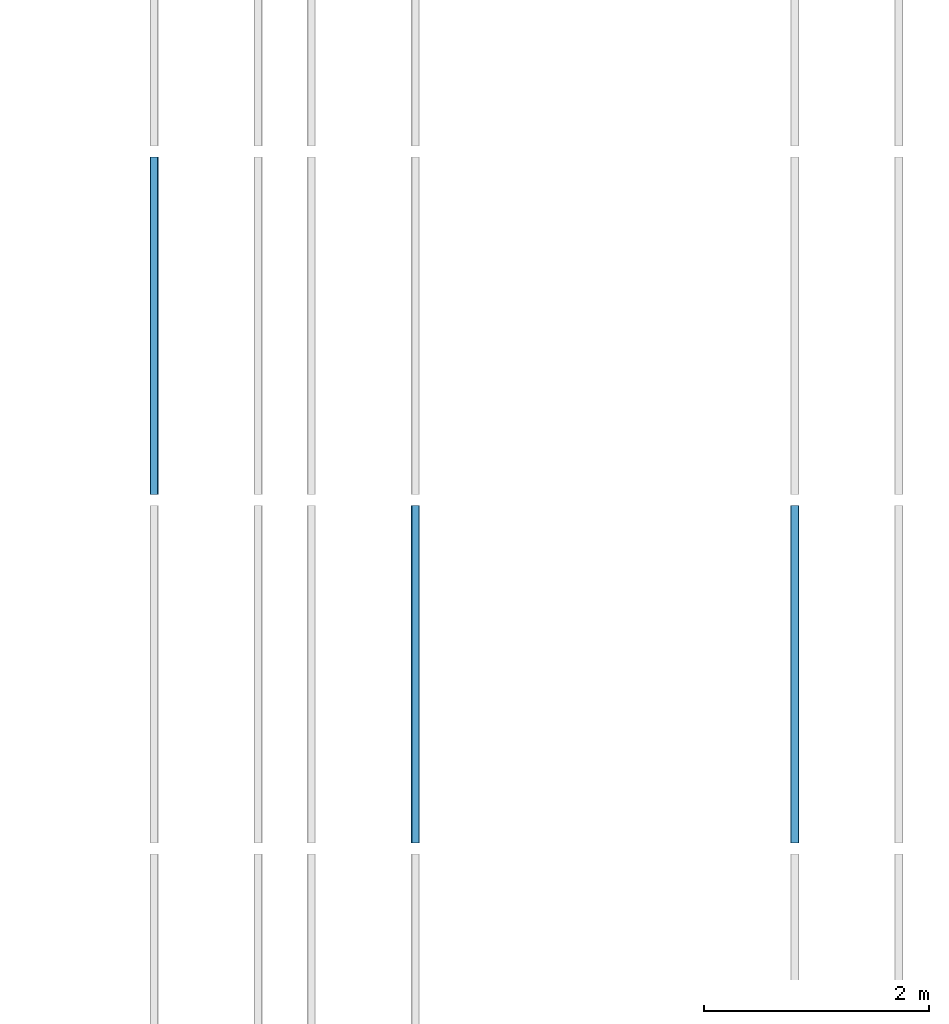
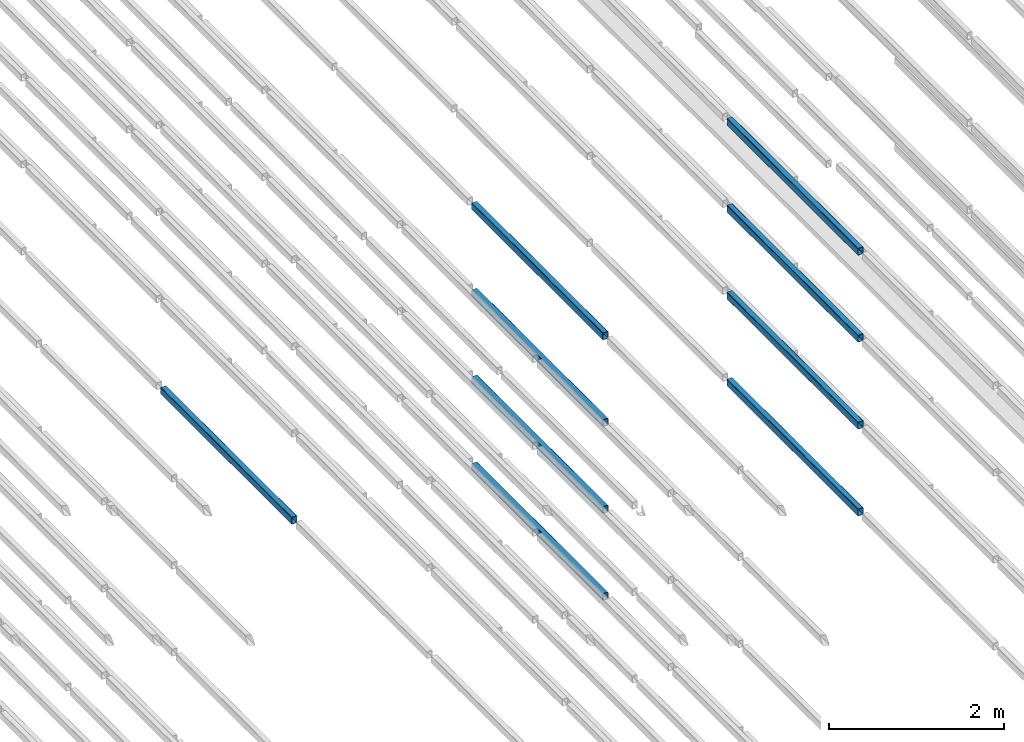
# One storey, part 85 of 290: 9 beams.
"""IFC2X3 building model written with IfcOpenShell, lengths in metres."""

from ifc_helpers import new_model, entity, si_unit, converted_unit, derived_unit, direction, frame, frame_2d, origin, place, context, subcontext, project, spatial, polyline, circle_curve, parameter, trimmed, segment, composite_curve, outline, extrude, material, type_object, element, save


model = new_model("IFC2X3")

# Units and contexts
model_context = context("Model", 3, precision=1e-05, world=origin(), true_north=direction((6.12303176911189e-17, 1.0)))
body_context = subcontext(model_context, "Body", "Model", "MODEL_VIEW")
ifc_project = project(units=[si_unit("LENGTHUNIT", "METRE"), si_unit("AREAUNIT", "SQUARE_METRE"), si_unit("VOLUMEUNIT", "CUBIC_METRE"), converted_unit("PLANEANGLEUNIT", "DEGREE", entity("IfcRatioMeasure", 0.0174532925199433), si_unit("PLANEANGLEUNIT", "RADIAN"), dimensions=[0, 0, 0, 0, 0, 0, 0]), si_unit("MASSUNIT", "GRAM", prefix="KILO"), derived_unit("MASSDENSITYUNIT", [(si_unit("MASSUNIT", "GRAM", prefix="KILO"), 1), (si_unit("LENGTHUNIT", "METRE"), -3)]), derived_unit("MOMENTOFINERTIAUNIT", [(si_unit("LENGTHUNIT", "METRE"), 4)]), si_unit("TIMEUNIT", "SECOND"), si_unit("FREQUENCYUNIT", "HERTZ"), si_unit("THERMODYNAMICTEMPERATUREUNIT", "DEGREE_CELSIUS"), derived_unit("THERMALTRANSMITTANCEUNIT", [(si_unit("MASSUNIT", "GRAM", prefix="KILO"), 1), (si_unit("THERMODYNAMICTEMPERATUREUNIT", "KELVIN"), -1), (si_unit("TIMEUNIT", "SECOND"), -3)]), derived_unit("VOLUMETRICFLOWRATEUNIT", [(si_unit("LENGTHUNIT", "METRE"), 3), (si_unit("TIMEUNIT", "SECOND"), -1)]), si_unit("ELECTRICCURRENTUNIT", "AMPERE"), si_unit("ELECTRICVOLTAGEUNIT", "VOLT"), si_unit("POWERUNIT", "WATT"), si_unit("FORCEUNIT", "NEWTON", prefix="KILO"), si_unit("ILLUMINANCEUNIT", "LUX"), si_unit("LUMINOUSFLUXUNIT", "LUMEN"), si_unit("LUMINOUSINTENSITYUNIT", "CANDELA"), derived_unit("USERDEFINED", [(si_unit("MASSUNIT", "GRAM", prefix="KILO"), -1), (si_unit("LENGTHUNIT", "METRE"), -2), (si_unit("TIMEUNIT", "SECOND"), 3), (si_unit("LUMINOUSFLUXUNIT", "LUMEN"), 1)]), derived_unit("LINEARVELOCITYUNIT", [(si_unit("LENGTHUNIT", "METRE"), 1), (si_unit("TIMEUNIT", "SECOND"), -1)]), si_unit("PRESSUREUNIT", "PASCAL"), derived_unit("USERDEFINED", [(si_unit("LENGTHUNIT", "METRE"), -2), (si_unit("MASSUNIT", "GRAM", prefix="KILO"), 1), (si_unit("TIMEUNIT", "SECOND"), -2)]), derived_unit("LINEARFORCEUNIT", [(si_unit("MASSUNIT", "GRAM", prefix="KILO"), 1), (si_unit("LENGTHUNIT", "METRE"), 1), (si_unit("TIMEUNIT", "SECOND"), -2), (si_unit("LENGTHUNIT", "METRE"), -1)]), derived_unit("PLANARFORCEUNIT", [(si_unit("MASSUNIT", "GRAM", prefix="KILO"), 1), (si_unit("LENGTHUNIT", "METRE"), 1), (si_unit("TIMEUNIT", "SECOND"), -2), (si_unit("LENGTHUNIT", "METRE"), -2)])], contexts=[model_context])

# Site, building, storey
site_placement = place(None, origin())
site = spatial("IfcSite", under=ifc_project, at=site_placement, Name="Default", CompositionType="ELEMENT")
building_placement = place(site_placement, origin())
building = spatial("IfcBuilding", under=site, at=building_placement, CompositionType="ELEMENT")
storey_placement = place(building_placement, frame((0.0, 0.0, 4.0)))
storey = spatial("IfcBuildingStorey", under=building, at=storey_placement, Name="01_OG", CompositionType="ELEMENT", Elevation=4.0)

# Beams
ifc_material = material(Name="Metall - Baustahl S235 blau")
beam_type = type_object("IfcBeamType", Name="RHS Träger (EN 10219-2):RHS 100 x 75 x 5", PredefinedType="NOTDEFINED")
beam_1_placement = place(storey_placement, frame((-182.765111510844, 39.548088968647, -1.2), z_axis=(0.0, 0.0, 1.0), x_axis=(0.0, 1.0, 0.0)))
element("IfcBeam", 1, at=beam_1_placement, inside=storey, type_object=beam_type, material=ifc_material, Name="RHS Träger (EN 10219-2):RHS 100 x 75 x 5", ObjectType="RHS Träger (EN 10219-2):RHS 100 x 75 x 5", context=body_context, shape_type="SweptSolid", body=[
    extrude(outline(composite_curve([segment(polyline([(-0.0400000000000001, -0.0374999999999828), (0.0400000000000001, -0.0374999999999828)]), True, "CONTINUOUS"), segment(trimmed(circle_curve(frame_2d((0.0400000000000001, -0.0274999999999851), x_axis=(0.0, 1.0)), 0.01), [parameter(180.0)], [parameter(270.0)], True, "PARAMETER"), True, "CONTINUOUS"), segment(polyline([(0.05, -0.0274999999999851), (0.05, 0.0274999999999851)]), True, "CONTINUOUS"), segment(trimmed(circle_curve(frame_2d((0.0400000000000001, 0.0274999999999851), x_axis=(0.0, 1.0)), 0.01), [parameter(270.0)], [parameter(4.07110999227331e-13)], True, "PARAMETER"), True, "CONTINUOUS"), segment(polyline([(0.0400000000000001, 0.0375000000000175), (-0.0400000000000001, 0.0375000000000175)]), True, "CONTINUOUS"), segment(trimmed(circle_curve(frame_2d((-0.0400000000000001, 0.0274999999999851), x_axis=(0.0, 1.0)), 0.01), [parameter(360.0)], [parameter(90.0000000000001)], True, "PARAMETER"), True, "CONTINUOUS"), segment(polyline([(-0.05, 0.0274999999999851), (-0.05, -0.0274999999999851)]), True, "CONTINUOUS"), segment(trimmed(circle_curve(frame_2d((-0.0400000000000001, -0.0274999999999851), x_axis=(0.0, 1.0)), 0.01), [parameter(90.0000000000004)], [parameter(180.0)], True, "PARAMETER"), True, "CONTINUOUS")], self_intersect=False), holes=[composite_curve([segment(trimmed(circle_curve(frame_2d((-0.0400000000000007, 0.0274999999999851), x_axis=(0.0, 1.0)), 0.005), [parameter(360.0)], [parameter(89.9999999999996)], True, "PARAMETER"), False, "CONTINUOUS"), segment(polyline([(-0.0400000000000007, 0.0325000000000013), (0.039999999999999, 0.0325000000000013)]), True, "CONTINUOUS"), segment(trimmed(circle_curve(frame_2d((0.039999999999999, 0.0274999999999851), x_axis=(0.0, 1.0)), 0.005), [parameter(270.0)], [parameter(0.0)], True, "PARAMETER"), False, "CONTINUOUS"), segment(polyline([(0.044999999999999, 0.0274999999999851), (0.044999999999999, -0.0274999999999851)]), True, "CONTINUOUS"), segment(trimmed(circle_curve(frame_2d((0.039999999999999, -0.0274999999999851), x_axis=(0.0, 1.0)), 0.005), [parameter(180.0)], [parameter(269.999999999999)], True, "PARAMETER"), False, "CONTINUOUS"), segment(polyline([(0.039999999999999, -0.0325000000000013), (-0.0400000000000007, -0.0325000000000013)]), True, "CONTINUOUS"), segment(trimmed(circle_curve(frame_2d((-0.0400000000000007, -0.0274999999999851), x_axis=(0.0, 1.0)), 0.005), [parameter(90.0000000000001)], [parameter(180.0)], True, "PARAMETER"), False, "CONTINUOUS"), segment(polyline([(-0.0450000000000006, -0.0274999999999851), (-0.0450000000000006, 0.0274999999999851)]), True, "CONTINUOUS")], self_intersect=False)]), frame((0.000100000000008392, -0.0375000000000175, -0.0500000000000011), z_axis=(1.0, 0.0, 0.0), x_axis=(0.0, 0.0, -1.0)), (0.0, 0.0, 1.0), 2.99979999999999),
])
beam_2_placement = place(storey_placement, frame((-182.765111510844, 39.548088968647, 0.0150000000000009), z_axis=(0.0, 0.0, 1.0), x_axis=(0.0, 1.0, 0.0)))
element("IfcBeam", 2, at=beam_2_placement, inside=storey, type_object=beam_type, material=ifc_material, Name="RHS Träger (EN 10219-2):RHS 100 x 75 x 5", ObjectType="RHS Träger (EN 10219-2):RHS 100 x 75 x 5", context=body_context, shape_type="SweptSolid", body=[
    extrude(outline(composite_curve([segment(polyline([(-0.0400000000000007, -0.0374999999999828), (0.0399999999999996, -0.0374999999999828)]), True, "CONTINUOUS"), segment(trimmed(circle_curve(frame_2d((0.0399999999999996, -0.0274999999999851), x_axis=(0.0, 1.0)), 0.01), [parameter(180.0)], [parameter(270.0)], True, "PARAMETER"), True, "CONTINUOUS"), segment(polyline([(0.0499999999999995, -0.0274999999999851), (0.0499999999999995, 0.0274999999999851)]), True, "CONTINUOUS"), segment(trimmed(circle_curve(frame_2d((0.0399999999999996, 0.0274999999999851), x_axis=(0.0, 1.0)), 0.01), [parameter(270.0)], [parameter(4.07110999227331e-13)], True, "PARAMETER"), True, "CONTINUOUS"), segment(polyline([(0.0399999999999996, 0.0375000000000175), (-0.0400000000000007, 0.0375000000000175)]), True, "CONTINUOUS"), segment(trimmed(circle_curve(frame_2d((-0.0400000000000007, 0.0274999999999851), x_axis=(0.0, 1.0)), 0.01), [parameter(360.0)], [parameter(90.0000000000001)], True, "PARAMETER"), True, "CONTINUOUS"), segment(polyline([(-0.0500000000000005, 0.0274999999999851), (-0.0500000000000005, -0.0274999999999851)]), True, "CONTINUOUS"), segment(trimmed(circle_curve(frame_2d((-0.0400000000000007, -0.0274999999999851), x_axis=(0.0, 1.0)), 0.01), [parameter(90.0000000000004)], [parameter(180.0)], True, "PARAMETER"), True, "CONTINUOUS")], self_intersect=False), holes=[composite_curve([segment(trimmed(circle_curve(frame_2d((-0.0400000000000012, 0.0274999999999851), x_axis=(0.0, 1.0)), 0.005), [parameter(360.0)], [parameter(89.9999999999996)], True, "PARAMETER"), False, "CONTINUOUS"), segment(polyline([(-0.0400000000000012, 0.0325000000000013), (0.0399999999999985, 0.0325000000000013)]), True, "CONTINUOUS"), segment(trimmed(circle_curve(frame_2d((0.0399999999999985, 0.0274999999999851), x_axis=(0.0, 1.0)), 0.005), [parameter(270.0)], [parameter(0.0)], True, "PARAMETER"), False, "CONTINUOUS"), segment(polyline([(0.0449999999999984, 0.0274999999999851), (0.0449999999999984, -0.0274999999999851)]), True, "CONTINUOUS"), segment(trimmed(circle_curve(frame_2d((0.0399999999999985, -0.0274999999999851), x_axis=(0.0, 1.0)), 0.005), [parameter(180.0)], [parameter(269.999999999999)], True, "PARAMETER"), False, "CONTINUOUS"), segment(polyline([(0.0399999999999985, -0.0325000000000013), (-0.0400000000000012, -0.0325000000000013)]), True, "CONTINUOUS"), segment(trimmed(circle_curve(frame_2d((-0.0400000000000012, -0.0274999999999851), x_axis=(0.0, 1.0)), 0.005), [parameter(90.0000000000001)], [parameter(180.0)], True, "PARAMETER"), False, "CONTINUOUS"), segment(polyline([(-0.0450000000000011, -0.0274999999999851), (-0.0450000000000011, 0.0274999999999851)]), True, "CONTINUOUS")], self_intersect=False)]), frame((0.000100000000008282, -0.0375000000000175, -0.0500000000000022), z_axis=(1.0, 0.0, 0.0), x_axis=(0.0, 0.0, -1.0)), (0.0, 0.0, 1.0), 2.99979999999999),
])
beam_3_placement = place(storey_placement, frame((-182.765111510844, 39.548088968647, 1.23), z_axis=(0.0, 0.0, 1.0), x_axis=(0.0, 1.0, 0.0)))
element("IfcBeam", 3, at=beam_3_placement, inside=storey, type_object=beam_type, material=ifc_material, Name="RHS Träger (EN 10219-2):RHS 100 x 75 x 5", ObjectType="RHS Träger (EN 10219-2):RHS 100 x 75 x 5", context=body_context, shape_type="SweptSolid", body=[
    extrude(outline(composite_curve([segment(polyline([(-0.0399999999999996, -0.0374999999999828), (0.0399999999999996, -0.0374999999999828)]), True, "CONTINUOUS"), segment(trimmed(circle_curve(frame_2d((0.0399999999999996, -0.0274999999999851), x_axis=(0.0, 1.0)), 0.01), [parameter(180.0)], [parameter(270.0)], True, "PARAMETER"), True, "CONTINUOUS"), segment(polyline([(0.0500000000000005, -0.0274999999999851), (0.0500000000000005, 0.0274999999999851)]), True, "CONTINUOUS"), segment(trimmed(circle_curve(frame_2d((0.0399999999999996, 0.0274999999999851), x_axis=(0.0, 1.0)), 0.01), [parameter(270.0)], [parameter(4.07110999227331e-13)], True, "PARAMETER"), True, "CONTINUOUS"), segment(polyline([(0.0399999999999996, 0.0375000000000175), (-0.0399999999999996, 0.0375000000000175)]), True, "CONTINUOUS"), segment(trimmed(circle_curve(frame_2d((-0.0399999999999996, 0.0274999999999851), x_axis=(0.0, 1.0)), 0.01), [parameter(360.0)], [parameter(90.0000000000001)], True, "PARAMETER"), True, "CONTINUOUS"), segment(polyline([(-0.0499999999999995, 0.0274999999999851), (-0.0499999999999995, -0.0274999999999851)]), True, "CONTINUOUS"), segment(trimmed(circle_curve(frame_2d((-0.0399999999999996, -0.0274999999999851), x_axis=(0.0, 1.0)), 0.01), [parameter(90.0000000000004)], [parameter(180.0)], True, "PARAMETER"), True, "CONTINUOUS")], self_intersect=False), holes=[composite_curve([segment(trimmed(circle_curve(frame_2d((-0.0400000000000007, 0.0274999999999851), x_axis=(0.0, 1.0)), 0.005), [parameter(360.0)], [parameter(89.9999999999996)], True, "PARAMETER"), False, "CONTINUOUS"), segment(polyline([(-0.0400000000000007, 0.0325000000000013), (0.0399999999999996, 0.0325000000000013)]), True, "CONTINUOUS"), segment(trimmed(circle_curve(frame_2d((0.0399999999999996, 0.0274999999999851), x_axis=(0.0, 1.0)), 0.005), [parameter(270.0)], [parameter(0.0)], True, "PARAMETER"), False, "CONTINUOUS"), segment(polyline([(0.0449999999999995, 0.0274999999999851), (0.0449999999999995, -0.0274999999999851)]), True, "CONTINUOUS"), segment(trimmed(circle_curve(frame_2d((0.0399999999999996, -0.0274999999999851), x_axis=(0.0, 1.0)), 0.005), [parameter(180.0)], [parameter(269.999999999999)], True, "PARAMETER"), False, "CONTINUOUS"), segment(polyline([(0.0399999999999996, -0.0325000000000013), (-0.0400000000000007, -0.0325000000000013)]), True, "CONTINUOUS"), segment(trimmed(circle_curve(frame_2d((-0.0400000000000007, -0.0274999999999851), x_axis=(0.0, 1.0)), 0.005), [parameter(90.0000000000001)], [parameter(180.0)], True, "PARAMETER"), False, "CONTINUOUS"), segment(polyline([(-0.0450000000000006, -0.0274999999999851), (-0.0450000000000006, 0.0274999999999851)]), True, "CONTINUOUS")], self_intersect=False)]), frame((0.000100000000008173, -0.0375000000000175, -0.0500000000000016), z_axis=(1.0, 0.0, 0.0), x_axis=(0.0, 0.0, -1.0)), (0.0, 0.0, 1.0), 2.99979999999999),
])
beam_4_placement = place(storey_placement, frame((-182.765111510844, 39.548088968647, 2.445), z_axis=(0.0, 0.0, 1.0), x_axis=(0.0, 1.0, 0.0)))
element("IfcBeam", 4, at=beam_4_placement, inside=storey, type_object=beam_type, material=ifc_material, Name="RHS Träger (EN 10219-2):RHS 100 x 75 x 5", ObjectType="RHS Träger (EN 10219-2):RHS 100 x 75 x 5", context=body_context, shape_type="SweptSolid", body=[
    extrude(outline(composite_curve([segment(polyline([(-0.0399999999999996, -0.0374999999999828), (0.0399999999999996, -0.0374999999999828)]), True, "CONTINUOUS"), segment(trimmed(circle_curve(frame_2d((0.0399999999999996, -0.0274999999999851), x_axis=(0.0, 1.0)), 0.01), [parameter(180.0)], [parameter(270.0)], True, "PARAMETER"), True, "CONTINUOUS"), segment(polyline([(0.0500000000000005, -0.0274999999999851), (0.0500000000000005, 0.0274999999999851)]), True, "CONTINUOUS"), segment(trimmed(circle_curve(frame_2d((0.0399999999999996, 0.0274999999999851), x_axis=(0.0, 1.0)), 0.01), [parameter(270.0)], [parameter(4.07110999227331e-13)], True, "PARAMETER"), True, "CONTINUOUS"), segment(polyline([(0.0399999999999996, 0.0375000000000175), (-0.0399999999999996, 0.0375000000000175)]), True, "CONTINUOUS"), segment(trimmed(circle_curve(frame_2d((-0.0399999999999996, 0.0274999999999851), x_axis=(0.0, 1.0)), 0.01), [parameter(360.0)], [parameter(90.0000000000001)], True, "PARAMETER"), True, "CONTINUOUS"), segment(polyline([(-0.0499999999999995, 0.0274999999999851), (-0.0499999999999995, -0.0274999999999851)]), True, "CONTINUOUS"), segment(trimmed(circle_curve(frame_2d((-0.0399999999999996, -0.0274999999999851), x_axis=(0.0, 1.0)), 0.01), [parameter(90.0000000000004)], [parameter(180.0)], True, "PARAMETER"), True, "CONTINUOUS")], self_intersect=False), holes=[composite_curve([segment(trimmed(circle_curve(frame_2d((-0.0400000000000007, 0.0274999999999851), x_axis=(0.0, 1.0)), 0.005), [parameter(360.0)], [parameter(89.9999999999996)], True, "PARAMETER"), False, "CONTINUOUS"), segment(polyline([(-0.0400000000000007, 0.0325000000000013), (0.0399999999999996, 0.0325000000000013)]), True, "CONTINUOUS"), segment(trimmed(circle_curve(frame_2d((0.0399999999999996, 0.0274999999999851), x_axis=(0.0, 1.0)), 0.005), [parameter(270.0)], [parameter(0.0)], True, "PARAMETER"), False, "CONTINUOUS"), segment(polyline([(0.0449999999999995, 0.0274999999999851), (0.0449999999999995, -0.0274999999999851)]), True, "CONTINUOUS"), segment(trimmed(circle_curve(frame_2d((0.0399999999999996, -0.0274999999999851), x_axis=(0.0, 1.0)), 0.005), [parameter(180.0)], [parameter(269.999999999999)], True, "PARAMETER"), False, "CONTINUOUS"), segment(polyline([(0.0399999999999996, -0.0325000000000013), (-0.0400000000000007, -0.0325000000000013)]), True, "CONTINUOUS"), segment(trimmed(circle_curve(frame_2d((-0.0400000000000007, -0.0274999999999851), x_axis=(0.0, 1.0)), 0.005), [parameter(90.0000000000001)], [parameter(180.0)], True, "PARAMETER"), False, "CONTINUOUS"), segment(polyline([(-0.0450000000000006, -0.0274999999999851), (-0.0450000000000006, 0.0274999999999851)]), True, "CONTINUOUS")], self_intersect=False)]), frame((0.000100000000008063, -0.0375000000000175, -0.0500000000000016), z_axis=(1.0, 0.0, 0.0), x_axis=(0.0, 0.0, -1.0)), (0.0, 0.0, 1.0), 2.99979999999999),
])
beam_5_placement = place(storey_placement, frame((-179.315111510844, 39.5480889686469, -1.2), z_axis=(0.0, 0.0, 1.0), x_axis=(0.0, 1.0, 0.0)))
element("IfcBeam", 5, at=beam_5_placement, inside=storey, type_object=beam_type, material=ifc_material, Name="RHS Träger (EN 10219-2):RHS 100 x 75 x 5", ObjectType="RHS Träger (EN 10219-2):RHS 100 x 75 x 5", context=body_context, shape_type="SweptSolid", body=[
    extrude(outline(composite_curve([segment(trimmed(circle_curve(frame_2d((-0.0274999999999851, -0.0400000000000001), x_axis=(1.0, 0.0)), 0.01), [parameter(180.0)], [parameter(270.0)], True, "PARAMETER"), True, "CONTINUOUS"), segment(polyline([(-0.0274999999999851, -0.05), (0.0274999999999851, -0.05)]), True, "CONTINUOUS"), segment(trimmed(circle_curve(frame_2d((0.0274999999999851, -0.0400000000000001), x_axis=(1.0, 0.0)), 0.01), [parameter(270.0)], [parameter(5.08888749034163e-14)], True, "PARAMETER"), True, "CONTINUOUS"), segment(polyline([(0.0375000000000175, -0.0400000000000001), (0.0375000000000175, 0.0400000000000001)]), True, "CONTINUOUS"), segment(trimmed(circle_curve(frame_2d((0.0274999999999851, 0.0400000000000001), x_axis=(1.0, 0.0)), 0.01), [parameter(360.0)], [parameter(89.9999999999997)], True, "PARAMETER"), True, "CONTINUOUS"), segment(polyline([(0.0274999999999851, 0.05), (-0.0274999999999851, 0.05)]), True, "CONTINUOUS"), segment(trimmed(circle_curve(frame_2d((-0.0274999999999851, 0.0400000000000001), x_axis=(1.0, 0.0)), 0.01), [parameter(90.0000000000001)], [parameter(180.0)], True, "PARAMETER"), True, "CONTINUOUS"), segment(polyline([(-0.0374999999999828, 0.0400000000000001), (-0.0374999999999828, -0.0400000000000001)]), True, "CONTINUOUS")], self_intersect=False), holes=[composite_curve([segment(polyline([(0.0274999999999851, -0.0450000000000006), (-0.0274999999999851, -0.0450000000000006)]), True, "CONTINUOUS"), segment(trimmed(circle_curve(frame_2d((-0.0274999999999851, -0.0400000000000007), x_axis=(1.0, 0.0)), 0.005), [parameter(180.0)], [parameter(270.0)], True, "PARAMETER"), False, "CONTINUOUS"), segment(polyline([(-0.0325000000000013, -0.0400000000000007), (-0.0325000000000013, 0.039999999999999)]), True, "CONTINUOUS"), segment(trimmed(circle_curve(frame_2d((-0.0274999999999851, 0.039999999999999), x_axis=(1.0, 0.0)), 0.005), [parameter(90.0000000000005)], [parameter(180.0)], True, "PARAMETER"), False, "CONTINUOUS"), segment(polyline([(-0.0274999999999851, 0.044999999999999), (0.0274999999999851, 0.044999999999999)]), True, "CONTINUOUS"), segment(trimmed(circle_curve(frame_2d((0.0274999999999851, 0.039999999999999), x_axis=(1.0, 0.0)), 0.005), [parameter(0.0)], [parameter(90.0000000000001)], True, "PARAMETER"), False, "CONTINUOUS"), segment(polyline([(0.0325000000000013, 0.039999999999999), (0.0325000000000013, -0.0400000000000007)]), True, "CONTINUOUS"), segment(trimmed(circle_curve(frame_2d((0.0274999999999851, -0.0400000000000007), x_axis=(1.0, 0.0)), 0.005), [parameter(270.0)], [parameter(4.07110999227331e-13)], True, "PARAMETER"), False, "CONTINUOUS")], self_intersect=False)]), frame((9.99999999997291e-05, 0.0375000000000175, -0.0500000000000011), z_axis=(1.0, 0.0, 0.0), x_axis=(0.0, -1.0, 0.0)), (0.0, 0.0, 1.0), 2.99979999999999),
])
beam_6_placement = place(storey_placement, frame((-179.315111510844, 39.5480889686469, 0.0150000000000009), z_axis=(0.0, 0.0, 1.0), x_axis=(0.0, 1.0, 0.0)))
element("IfcBeam", 6, at=beam_6_placement, inside=storey, type_object=beam_type, material=ifc_material, Name="RHS Träger (EN 10219-2):RHS 100 x 75 x 5", ObjectType="RHS Träger (EN 10219-2):RHS 100 x 75 x 5", context=body_context, shape_type="SweptSolid", body=[
    extrude(outline(composite_curve([segment(trimmed(circle_curve(frame_2d((-0.0274999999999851, -0.0400000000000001), x_axis=(1.0, 0.0)), 0.01), [parameter(180.0)], [parameter(270.0)], True, "PARAMETER"), True, "CONTINUOUS"), segment(polyline([(-0.0274999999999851, -0.05), (0.0274999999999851, -0.05)]), True, "CONTINUOUS"), segment(trimmed(circle_curve(frame_2d((0.0274999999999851, -0.0400000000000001), x_axis=(1.0, 0.0)), 0.01), [parameter(270.0)], [parameter(5.08888749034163e-14)], True, "PARAMETER"), True, "CONTINUOUS"), segment(polyline([(0.0375000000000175, -0.0400000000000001), (0.0375000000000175, 0.0400000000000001)]), True, "CONTINUOUS"), segment(trimmed(circle_curve(frame_2d((0.0274999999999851, 0.0400000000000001), x_axis=(1.0, 0.0)), 0.01), [parameter(360.0)], [parameter(89.9999999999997)], True, "PARAMETER"), True, "CONTINUOUS"), segment(polyline([(0.0274999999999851, 0.05), (-0.0274999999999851, 0.05)]), True, "CONTINUOUS"), segment(trimmed(circle_curve(frame_2d((-0.0274999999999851, 0.0400000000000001), x_axis=(1.0, 0.0)), 0.01), [parameter(90.0000000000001)], [parameter(180.0)], True, "PARAMETER"), True, "CONTINUOUS"), segment(polyline([(-0.0374999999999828, 0.0400000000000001), (-0.0374999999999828, -0.0400000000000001)]), True, "CONTINUOUS")], self_intersect=False), holes=[composite_curve([segment(polyline([(0.0274999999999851, -0.0450000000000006), (-0.0274999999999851, -0.0450000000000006)]), True, "CONTINUOUS"), segment(trimmed(circle_curve(frame_2d((-0.0274999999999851, -0.0400000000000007), x_axis=(1.0, 0.0)), 0.005), [parameter(180.0)], [parameter(270.0)], True, "PARAMETER"), False, "CONTINUOUS"), segment(polyline([(-0.0325000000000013, -0.0400000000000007), (-0.0325000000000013, 0.039999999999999)]), True, "CONTINUOUS"), segment(trimmed(circle_curve(frame_2d((-0.0274999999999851, 0.039999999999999), x_axis=(1.0, 0.0)), 0.005), [parameter(90.0000000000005)], [parameter(180.0)], True, "PARAMETER"), False, "CONTINUOUS"), segment(polyline([(-0.0274999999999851, 0.044999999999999), (0.0274999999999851, 0.044999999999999)]), True, "CONTINUOUS"), segment(trimmed(circle_curve(frame_2d((0.0274999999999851, 0.039999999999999), x_axis=(1.0, 0.0)), 0.005), [parameter(0.0)], [parameter(90.0000000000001)], True, "PARAMETER"), False, "CONTINUOUS"), segment(polyline([(0.0325000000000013, 0.039999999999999), (0.0325000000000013, -0.0400000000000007)]), True, "CONTINUOUS"), segment(trimmed(circle_curve(frame_2d((0.0274999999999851, -0.0400000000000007), x_axis=(1.0, 0.0)), 0.005), [parameter(270.0)], [parameter(4.07110999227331e-13)], True, "PARAMETER"), False, "CONTINUOUS")], self_intersect=False)]), frame((9.99999999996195e-05, 0.0375000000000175, -0.0500000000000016), z_axis=(1.0, 0.0, 0.0), x_axis=(0.0, -1.0, 0.0)), (0.0, 0.0, 1.0), 2.99979999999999),
])
beam_7_placement = place(storey_placement, frame((-179.315111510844, 39.5480889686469, 1.23), z_axis=(0.0, 0.0, 1.0), x_axis=(0.0, 1.0, 0.0)))
element("IfcBeam", 7, at=beam_7_placement, inside=storey, type_object=beam_type, material=ifc_material, Name="RHS Träger (EN 10219-2):RHS 100 x 75 x 5", ObjectType="RHS Träger (EN 10219-2):RHS 100 x 75 x 5", context=body_context, shape_type="SweptSolid", body=[
    extrude(outline(composite_curve([segment(trimmed(circle_curve(frame_2d((-0.0274999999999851, -0.0399999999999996), x_axis=(1.0, 0.0)), 0.01), [parameter(180.0)], [parameter(270.0)], True, "PARAMETER"), True, "CONTINUOUS"), segment(polyline([(-0.0274999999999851, -0.0499999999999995), (0.0274999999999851, -0.0499999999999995)]), True, "CONTINUOUS"), segment(trimmed(circle_curve(frame_2d((0.0274999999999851, -0.0399999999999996), x_axis=(1.0, 0.0)), 0.01), [parameter(270.0)], [parameter(5.08888749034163e-14)], True, "PARAMETER"), True, "CONTINUOUS"), segment(polyline([(0.0375000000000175, -0.0399999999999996), (0.0375000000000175, 0.0399999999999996)]), True, "CONTINUOUS"), segment(trimmed(circle_curve(frame_2d((0.0274999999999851, 0.0399999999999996), x_axis=(1.0, 0.0)), 0.01), [parameter(360.0)], [parameter(89.9999999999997)], True, "PARAMETER"), True, "CONTINUOUS"), segment(polyline([(0.0274999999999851, 0.0500000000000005), (-0.0274999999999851, 0.0500000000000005)]), True, "CONTINUOUS"), segment(trimmed(circle_curve(frame_2d((-0.0274999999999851, 0.0399999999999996), x_axis=(1.0, 0.0)), 0.01), [parameter(90.0000000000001)], [parameter(180.0)], True, "PARAMETER"), True, "CONTINUOUS"), segment(polyline([(-0.0374999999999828, 0.0399999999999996), (-0.0374999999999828, -0.0399999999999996)]), True, "CONTINUOUS")], self_intersect=False), holes=[composite_curve([segment(polyline([(0.0274999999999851, -0.0450000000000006), (-0.0274999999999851, -0.0450000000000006)]), True, "CONTINUOUS"), segment(trimmed(circle_curve(frame_2d((-0.0274999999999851, -0.0400000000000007), x_axis=(1.0, 0.0)), 0.005), [parameter(180.0)], [parameter(270.0)], True, "PARAMETER"), False, "CONTINUOUS"), segment(polyline([(-0.0325000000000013, -0.0400000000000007), (-0.0325000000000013, 0.0399999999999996)]), True, "CONTINUOUS"), segment(trimmed(circle_curve(frame_2d((-0.0274999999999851, 0.0399999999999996), x_axis=(1.0, 0.0)), 0.005), [parameter(90.0000000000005)], [parameter(180.0)], True, "PARAMETER"), False, "CONTINUOUS"), segment(polyline([(-0.0274999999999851, 0.0449999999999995), (0.0274999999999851, 0.0449999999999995)]), True, "CONTINUOUS"), segment(trimmed(circle_curve(frame_2d((0.0274999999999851, 0.0399999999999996), x_axis=(1.0, 0.0)), 0.005), [parameter(0.0)], [parameter(90.0000000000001)], True, "PARAMETER"), False, "CONTINUOUS"), segment(polyline([(0.0325000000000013, 0.0399999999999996), (0.0325000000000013, -0.0400000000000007)]), True, "CONTINUOUS"), segment(trimmed(circle_curve(frame_2d((0.0274999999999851, -0.0400000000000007), x_axis=(1.0, 0.0)), 0.005), [parameter(270.0)], [parameter(4.07110999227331e-13)], True, "PARAMETER"), False, "CONTINUOUS")], self_intersect=False)]), frame((9.99999999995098e-05, 0.0375000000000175, -0.0500000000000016), z_axis=(1.0, 0.0, 0.0), x_axis=(0.0, -1.0, 0.0)), (0.0, 0.0, 1.0), 2.99979999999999),
])
beam_8_placement = place(storey_placement, frame((-179.315111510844, 39.5480889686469, 2.445), z_axis=(0.0, 0.0, 1.0), x_axis=(0.0, 1.0, 0.0)))
element("IfcBeam", 8, at=beam_8_placement, inside=storey, type_object=beam_type, material=ifc_material, Name="RHS Träger (EN 10219-2):RHS 100 x 75 x 5", ObjectType="RHS Träger (EN 10219-2):RHS 100 x 75 x 5", context=body_context, shape_type="SweptSolid", body=[
    extrude(outline(composite_curve([segment(trimmed(circle_curve(frame_2d((-0.0274999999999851, -0.0399999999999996), x_axis=(1.0, 0.0)), 0.01), [parameter(180.0)], [parameter(270.0)], True, "PARAMETER"), True, "CONTINUOUS"), segment(polyline([(-0.0274999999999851, -0.0499999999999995), (0.0274999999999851, -0.0499999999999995)]), True, "CONTINUOUS"), segment(trimmed(circle_curve(frame_2d((0.0274999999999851, -0.0399999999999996), x_axis=(1.0, 0.0)), 0.01), [parameter(270.0)], [parameter(5.08888749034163e-14)], True, "PARAMETER"), True, "CONTINUOUS"), segment(polyline([(0.0375000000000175, -0.0399999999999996), (0.0375000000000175, 0.0399999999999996)]), True, "CONTINUOUS"), segment(trimmed(circle_curve(frame_2d((0.0274999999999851, 0.0399999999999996), x_axis=(1.0, 0.0)), 0.01), [parameter(360.0)], [parameter(89.9999999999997)], True, "PARAMETER"), True, "CONTINUOUS"), segment(polyline([(0.0274999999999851, 0.0500000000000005), (-0.0274999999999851, 0.0500000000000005)]), True, "CONTINUOUS"), segment(trimmed(circle_curve(frame_2d((-0.0274999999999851, 0.0399999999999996), x_axis=(1.0, 0.0)), 0.01), [parameter(90.0000000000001)], [parameter(180.0)], True, "PARAMETER"), True, "CONTINUOUS"), segment(polyline([(-0.0374999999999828, 0.0399999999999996), (-0.0374999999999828, -0.0399999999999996)]), True, "CONTINUOUS")], self_intersect=False), holes=[composite_curve([segment(polyline([(0.0274999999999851, -0.0450000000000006), (-0.0274999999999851, -0.0450000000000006)]), True, "CONTINUOUS"), segment(trimmed(circle_curve(frame_2d((-0.0274999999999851, -0.0400000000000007), x_axis=(1.0, 0.0)), 0.005), [parameter(180.0)], [parameter(270.0)], True, "PARAMETER"), False, "CONTINUOUS"), segment(polyline([(-0.0325000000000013, -0.0400000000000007), (-0.0325000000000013, 0.0399999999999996)]), True, "CONTINUOUS"), segment(trimmed(circle_curve(frame_2d((-0.0274999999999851, 0.0399999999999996), x_axis=(1.0, 0.0)), 0.005), [parameter(90.0000000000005)], [parameter(180.0)], True, "PARAMETER"), False, "CONTINUOUS"), segment(polyline([(-0.0274999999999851, 0.0449999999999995), (0.0274999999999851, 0.0449999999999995)]), True, "CONTINUOUS"), segment(trimmed(circle_curve(frame_2d((0.0274999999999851, 0.0399999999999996), x_axis=(1.0, 0.0)), 0.005), [parameter(0.0)], [parameter(90.0000000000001)], True, "PARAMETER"), False, "CONTINUOUS"), segment(polyline([(0.0325000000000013, 0.0399999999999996), (0.0325000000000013, -0.0400000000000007)]), True, "CONTINUOUS"), segment(trimmed(circle_curve(frame_2d((0.0274999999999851, -0.0400000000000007), x_axis=(1.0, 0.0)), 0.005), [parameter(270.0)], [parameter(4.07110999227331e-13)], True, "PARAMETER"), False, "CONTINUOUS")], self_intersect=False)]), frame((9.99999999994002e-05, 0.0375000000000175, -0.0500000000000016), z_axis=(1.0, 0.0, 0.0), x_axis=(0.0, -1.0, 0.0)), (0.0, 0.0, 1.0), 2.99979999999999),
])
beam_9_placement = place(storey_placement, frame((-185.015111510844, 42.648088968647, -1.2), z_axis=(0.0, 0.0, 1.0), x_axis=(0.0, 1.0, 0.0)))
element("IfcBeam", 9, at=beam_9_placement, inside=storey, type_object=beam_type, material=ifc_material, Name="RHS Träger (EN 10219-2):RHS 100 x 75 x 5", ObjectType="RHS Träger (EN 10219-2):RHS 100 x 75 x 5", context=body_context, shape_type="SweptSolid", body=[
    extrude(outline(composite_curve([segment(trimmed(circle_curve(frame_2d((-0.0274999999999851, -0.0400000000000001), x_axis=(1.0, 0.0)), 0.01), [parameter(180.0)], [parameter(270.0)], True, "PARAMETER"), True, "CONTINUOUS"), segment(polyline([(-0.0274999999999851, -0.05), (0.0274999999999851, -0.05)]), True, "CONTINUOUS"), segment(trimmed(circle_curve(frame_2d((0.0274999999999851, -0.0400000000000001), x_axis=(1.0, 0.0)), 0.01), [parameter(270.0)], [parameter(5.08888749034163e-14)], True, "PARAMETER"), True, "CONTINUOUS"), segment(polyline([(0.0375000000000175, -0.0400000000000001), (0.0375000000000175, 0.0400000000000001)]), True, "CONTINUOUS"), segment(trimmed(circle_curve(frame_2d((0.0274999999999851, 0.0400000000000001), x_axis=(1.0, 0.0)), 0.01), [parameter(360.0)], [parameter(89.9999999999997)], True, "PARAMETER"), True, "CONTINUOUS"), segment(polyline([(0.0274999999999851, 0.05), (-0.0274999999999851, 0.05)]), True, "CONTINUOUS"), segment(trimmed(circle_curve(frame_2d((-0.0274999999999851, 0.0400000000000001), x_axis=(1.0, 0.0)), 0.01), [parameter(90.0000000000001)], [parameter(180.0)], True, "PARAMETER"), True, "CONTINUOUS"), segment(polyline([(-0.0374999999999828, 0.0400000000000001), (-0.0374999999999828, -0.0400000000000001)]), True, "CONTINUOUS")], self_intersect=False), holes=[composite_curve([segment(polyline([(0.0274999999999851, -0.0450000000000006), (-0.0274999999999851, -0.0450000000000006)]), True, "CONTINUOUS"), segment(trimmed(circle_curve(frame_2d((-0.0274999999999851, -0.0400000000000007), x_axis=(1.0, 0.0)), 0.005), [parameter(180.0)], [parameter(270.0)], True, "PARAMETER"), False, "CONTINUOUS"), segment(polyline([(-0.0325000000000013, -0.0400000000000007), (-0.0325000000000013, 0.039999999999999)]), True, "CONTINUOUS"), segment(trimmed(circle_curve(frame_2d((-0.0274999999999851, 0.039999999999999), x_axis=(1.0, 0.0)), 0.005), [parameter(90.0000000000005)], [parameter(180.0)], True, "PARAMETER"), False, "CONTINUOUS"), segment(polyline([(-0.0274999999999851, 0.044999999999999), (0.0274999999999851, 0.044999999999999)]), True, "CONTINUOUS"), segment(trimmed(circle_curve(frame_2d((0.0274999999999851, 0.039999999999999), x_axis=(1.0, 0.0)), 0.005), [parameter(0.0)], [parameter(90.0000000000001)], True, "PARAMETER"), False, "CONTINUOUS"), segment(polyline([(0.0325000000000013, 0.039999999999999), (0.0325000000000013, -0.0400000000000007)]), True, "CONTINUOUS"), segment(trimmed(circle_curve(frame_2d((0.0274999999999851, -0.0400000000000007), x_axis=(1.0, 0.0)), 0.005), [parameter(270.0)], [parameter(4.07110999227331e-13)], True, "PARAMETER"), False, "CONTINUOUS")], self_intersect=False)]), frame((9.99999999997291e-05, 0.0375000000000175, -0.0500000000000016), z_axis=(1.0, 0.0, 0.0), x_axis=(0.0, -1.0, 0.0)), (0.0, 0.0, 1.0), 2.99979999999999),
])

save(model, "model.ifc")
